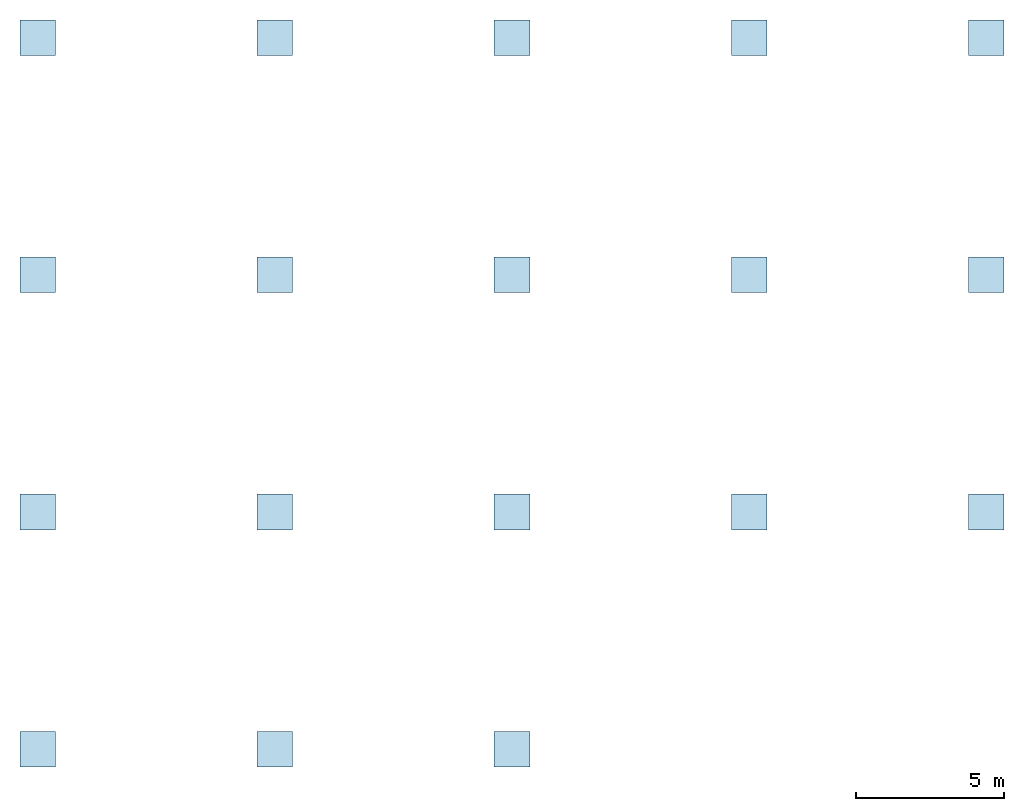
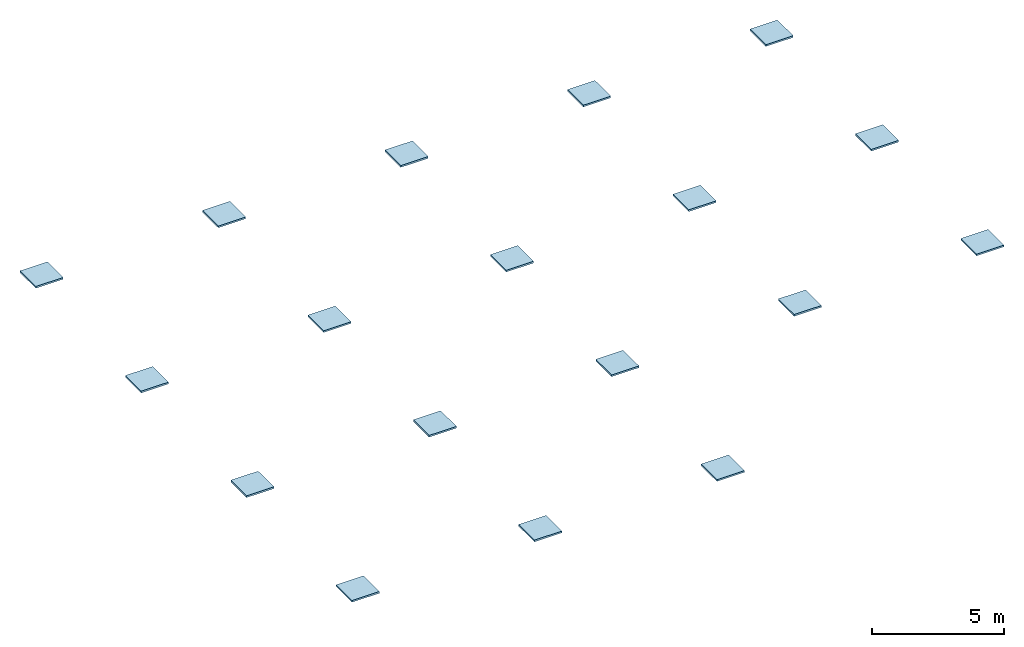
# One storey: 18 slabs.
"""IFC4X3_ADD2 building model written with IfcOpenShell, lengths in millimetres."""

from ifc_helpers import new_model, entity, si_unit, converted_unit, derived_unit, direction, frame, frame_2d, origin, origin_2d_with_axis, place, context, subcontext, project, spatial, rectangle, extrude, material, layer, layer_set, layer_usage, type_object, element, save


model = new_model("IFC4X3_ADD2")

# Units and contexts
model_context = context("Model", 3, precision=0.01, world=origin(), true_north=direction((6.123233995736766e-17, 1.0)))
plan_context = context("Plan", 3, precision=0.01, world=origin(), true_north=direction((6.123233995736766e-17, 1.0)))
body_context = subcontext(model_context, "Body", "Model", "MODEL_VIEW")
ifc_project = project(units=[si_unit("LENGTHUNIT", "METRE", prefix="MILLI"), converted_unit("PLANEANGLEUNIT", "DEGREE", entity("IfcPlaneAngleMeasure", 0.017453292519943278), si_unit("PLANEANGLEUNIT", "RADIAN"), dimensions=[0, 0, 0, 0, 0, 0, 0]), si_unit("AREAUNIT", "SQUARE_METRE"), si_unit("VOLUMEUNIT", "CUBIC_METRE"), derived_unit("THERMALTRANSMITTANCEUNIT", [(si_unit("MASSUNIT", "GRAM", prefix="KILO"), 1), (si_unit("THERMODYNAMICTEMPERATUREUNIT", "KELVIN"), -1), (si_unit("TIMEUNIT", "SECOND"), -3)]), derived_unit("USERDEFINED", [(si_unit("MASSUNIT", "GRAM", prefix="KILO"), 1), (si_unit("THERMODYNAMICTEMPERATUREUNIT", "KELVIN"), -1), (si_unit("TIMEUNIT", "SECOND"), -2)]), derived_unit("THERMALRESISTANCEUNIT", [(si_unit("MASSUNIT", "GRAM", prefix="KILO"), -1), (si_unit("TIMEUNIT", "SECOND"), 3), (si_unit("THERMODYNAMICTEMPERATUREUNIT", "KELVIN"), 1)]), si_unit("PRESSUREUNIT", "PASCAL"), derived_unit("MASSDENSITYUNIT", [(si_unit("MASSUNIT", "GRAM", prefix="KILO"), 1), (si_unit("LENGTHUNIT", "METRE"), -3)]), derived_unit("MODULUSOFELASTICITYUNIT", [(si_unit("MASSUNIT", "GRAM", prefix="KILO"), 1), (si_unit("TIMEUNIT", "SECOND"), -2), (si_unit("LENGTHUNIT", "METRE"), -1)]), derived_unit("THERMALEXPANSIONCOEFFICIENTUNIT", [(si_unit("THERMODYNAMICTEMPERATUREUNIT", "KELVIN"), -1)]), derived_unit("VAPORPERMEABILITYUNIT", [(si_unit("LENGTHUNIT", "METRE"), -1), (si_unit("TIMEUNIT", "SECOND"), 1)]), derived_unit("USERDEFINED", [(si_unit("MASSUNIT", "GRAM", prefix="KILO"), 1), (si_unit("TIMEUNIT", "SECOND"), -3), (si_unit("LENGTHUNIT", "METRE"), 3), (si_unit("ELECTRICCURRENTUNIT", "AMPERE"), -2)]), derived_unit("SPECIFICHEATCAPACITYUNIT", [(si_unit("THERMODYNAMICTEMPERATUREUNIT", "KELVIN"), -1), (si_unit("TIMEUNIT", "SECOND"), -2), (si_unit("LENGTHUNIT", "METRE"), 2)]), derived_unit("THERMALCONDUCTANCEUNIT", [(si_unit("MASSUNIT", "GRAM", prefix="KILO"), 1), (si_unit("THERMODYNAMICTEMPERATUREUNIT", "KELVIN"), -1), (si_unit("TIMEUNIT", "SECOND"), -3), (si_unit("LENGTHUNIT", "METRE"), 1)])], contexts=[model_context, plan_context])

# Site, building, storey
site_placement = place(None, origin())
site = spatial("IfcSite", under=ifc_project, at=site_placement, Name="Default", CompositionType="ELEMENT")
building_placement = place(site_placement, origin())
building = spatial("IfcBuilding", under=site, at=building_placement, Name="Building Name", CompositionType="ELEMENT")
storey_placement = place(building_placement, frame((0.0, 0.0, -1850.0)))
storey = spatial("IfcBuildingStorey", under=building, at=storey_placement, Name="L-02", CompositionType="ELEMENT", Elevation=-1850.0000000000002)

# Slabs
ifc_material = material(Name="Concrete - Cast-in-Place Concrete", Category="Concrete")
ifc_layer = layer(ifc_material, 80.0, Name="Concrete - Cast-in-Place Concrete", Category="Concrete")
ifc_layer_set = layer_set([ifc_layer], Name="Floor:Blinding concrete 80mm")
ifc_layer_usage_1 = layer_usage(ifc_layer_set, "AXIS3", "POSITIVE", 0.0)
slab_type = type_object("IfcSlabType", Name="Floor:Blinding concrete 80mm", PredefinedType="FLOOR", material=ifc_layer_set)
slab_1_placement = place(storey_placement, origin())
element("IfcSlab", 1, at=slab_1_placement, inside=storey, type_object=slab_type, material=ifc_layer_usage_1, Name="Floor:Blinding concrete 80mm", ObjectType="Floor:Blinding concrete 80mm", PredefinedType="FLOOR", context=body_context, shape_type="SweptSolid", body=[
    extrude(rectangle(XDim=1200.0, YDim=1200.0, at=origin_2d_with_axis()), frame((-12967.951236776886, 12096.696870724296, 0.0), z_axis=(0.0, 0.0, -1.0), x_axis=(0.0, 1.0, 0.0)), (0.0, 0.0, 1.0), 79.99999999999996),
])
ifc_layer_usage_2 = layer_usage(ifc_layer_set, "AXIS3", "POSITIVE", 0.0)
slab_2_placement = place(storey_placement, origin())
element("IfcSlab", 2, at=slab_2_placement, inside=storey, type_object=slab_type, material=ifc_layer_usage_2, Name="Floor:Blinding concrete 80mm", ObjectType="Floor:Blinding concrete 80mm", PredefinedType="FLOOR", context=body_context, shape_type="SweptSolid", body=[
    extrude(rectangle(XDim=1200.0, YDim=1200.0, at=origin_2d_with_axis()), frame((-4967.951236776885, 12096.69687072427, 0.0), z_axis=(0.0, 0.0, -1.0), x_axis=(0.0, 1.0, 0.0)), (0.0, 0.0, 1.0), 79.99999999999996),
])
ifc_layer_usage_3 = layer_usage(ifc_layer_set, "AXIS3", "POSITIVE", 0.0)
slab_3_placement = place(storey_placement, origin())
element("IfcSlab", 3, at=slab_3_placement, inside=storey, type_object=slab_type, material=ifc_layer_usage_3, Name="Floor:Blinding concrete 80mm", ObjectType="Floor:Blinding concrete 80mm", PredefinedType="FLOOR", context=body_context, shape_type="SweptSolid", body=[
    extrude(rectangle(XDim=1200.0, YDim=1200.0, at=origin_2d_with_axis()), frame((3032.0487632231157, 12096.696870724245, 0.0), z_axis=(0.0, 0.0, -1.0), x_axis=(0.0, 1.0, 0.0)), (0.0, 0.0, 1.0), 79.99999999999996),
])
ifc_layer_usage_4 = layer_usage(ifc_layer_set, "AXIS3", "POSITIVE", 0.0)
slab_4_placement = place(storey_placement, origin())
element("IfcSlab", 4, at=slab_4_placement, inside=storey, type_object=slab_type, material=ifc_layer_usage_4, Name="Floor:Blinding concrete 80mm", ObjectType="Floor:Blinding concrete 80mm", PredefinedType="FLOOR", context=body_context, shape_type="SweptSolid", body=[
    extrude(rectangle(XDim=1200.0, YDim=1200.0, at=origin_2d_with_axis()), frame((11032.048763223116, 12096.696870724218, 0.0), z_axis=(0.0, 0.0, -1.0), x_axis=(0.0, 1.0, 0.0)), (0.0, 0.0, 1.0), 79.99999999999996),
])
ifc_layer_usage_5 = layer_usage(ifc_layer_set, "AXIS3", "POSITIVE", 0.0)
slab_5_placement = place(storey_placement, origin())
element("IfcSlab", 5, at=slab_5_placement, inside=storey, type_object=slab_type, material=ifc_layer_usage_5, Name="Floor:Blinding concrete 80mm", ObjectType="Floor:Blinding concrete 80mm", PredefinedType="FLOOR", context=body_context, shape_type="SweptSolid", body=[
    extrude(rectangle(XDim=1200.0, YDim=1199.9999999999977, at=frame_2d((0.0, 1.0800249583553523e-12), x_axis=(1.0, 0.0))), frame((19032.048763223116, 12096.696870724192, 0.0), z_axis=(0.0, 0.0, -1.0), x_axis=(0.0, 1.0, 0.0)), (0.0, 0.0, 1.0), 79.99999999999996),
])
ifc_layer_usage_6 = layer_usage(ifc_layer_set, "AXIS3", "POSITIVE", 0.0)
slab_6_placement = place(storey_placement, origin())
element("IfcSlab", 6, at=slab_6_placement, inside=storey, type_object=slab_type, material=ifc_layer_usage_6, Name="Floor:Blinding concrete 80mm", ObjectType="Floor:Blinding concrete 80mm", PredefinedType="FLOOR", context=body_context, shape_type="SweptSolid", body=[
    extrude(rectangle(XDim=1200.0, YDim=1199.9999999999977, at=frame_2d((0.0, -1.0800249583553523e-12), x_axis=(1.0, 0.0))), frame((19032.048763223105, 4096.696870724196, 0.0), z_axis=(0.0, 0.0, -1.0), x_axis=(0.0, 1.0, 0.0)), (0.0, 0.0, 1.0), 79.99999999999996),
])
ifc_layer_usage_7 = layer_usage(ifc_layer_set, "AXIS3", "POSITIVE", 0.0)
slab_7_placement = place(storey_placement, origin())
element("IfcSlab", 7, at=slab_7_placement, inside=storey, type_object=slab_type, material=ifc_layer_usage_7, Name="Floor:Blinding concrete 80mm", ObjectType="Floor:Blinding concrete 80mm", PredefinedType="FLOOR", context=body_context, shape_type="SweptSolid", body=[
    extrude(rectangle(XDim=1200.0, YDim=1199.9999999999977, at=frame_2d((0.0, -1.0800249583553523e-12), x_axis=(1.0, 0.0))), frame((11032.048763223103, 4096.696870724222, 0.0), z_axis=(0.0, 0.0, -1.0), x_axis=(0.0, 1.0, 0.0)), (0.0, 0.0, 1.0), 79.99999999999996),
])
ifc_layer_usage_8 = layer_usage(ifc_layer_set, "AXIS3", "POSITIVE", 0.0)
slab_8_placement = place(storey_placement, origin())
element("IfcSlab", 8, at=slab_8_placement, inside=storey, type_object=slab_type, material=ifc_layer_usage_8, Name="Floor:Blinding concrete 80mm", ObjectType="Floor:Blinding concrete 80mm", PredefinedType="FLOOR", context=body_context, shape_type="SweptSolid", body=[
    extrude(rectangle(XDim=1200.0, YDim=1199.999999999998, at=origin_2d_with_axis()), frame((3032.0487632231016, 4096.696870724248, 0.0), z_axis=(0.0, 0.0, -1.0), x_axis=(0.0, 1.0, 0.0)), (0.0, 0.0, 1.0), 79.99999999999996),
])
ifc_layer_usage_9 = layer_usage(ifc_layer_set, "AXIS3", "POSITIVE", 0.0)
slab_9_placement = place(storey_placement, origin())
element("IfcSlab", 9, at=slab_9_placement, inside=storey, type_object=slab_type, material=ifc_layer_usage_9, Name="Floor:Blinding concrete 80mm", ObjectType="Floor:Blinding concrete 80mm", PredefinedType="FLOOR", context=body_context, shape_type="SweptSolid", body=[
    extrude(rectangle(XDim=1200.0, YDim=1199.999999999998, at=origin_2d_with_axis()), frame((-4967.951236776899, 4096.696870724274, 0.0), z_axis=(0.0, 0.0, -1.0), x_axis=(0.0, 1.0, 0.0)), (0.0, 0.0, 1.0), 79.99999999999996),
])
ifc_layer_usage_10 = layer_usage(ifc_layer_set, "AXIS3", "POSITIVE", 0.0)
slab_10_placement = place(storey_placement, origin())
element("IfcSlab", 10, at=slab_10_placement, inside=storey, type_object=slab_type, material=ifc_layer_usage_10, Name="Floor:Blinding concrete 80mm", ObjectType="Floor:Blinding concrete 80mm", PredefinedType="FLOOR", context=body_context, shape_type="SweptSolid", body=[
    extrude(rectangle(XDim=1200.0, YDim=1199.9999999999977, at=frame_2d((0.0, -1.0800249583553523e-12), x_axis=(1.0, 0.0))), frame((-12967.951236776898, 4096.6968707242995, 0.0), z_axis=(0.0, 0.0, -1.0), x_axis=(0.0, 1.0, 0.0)), (0.0, 0.0, 1.0), 79.99999999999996),
])
ifc_layer_usage_11 = layer_usage(ifc_layer_set, "AXIS3", "POSITIVE", 0.0)
slab_11_placement = place(storey_placement, origin())
element("IfcSlab", 11, at=slab_11_placement, inside=storey, type_object=slab_type, material=ifc_layer_usage_11, Name="Floor:Blinding concrete 80mm", ObjectType="Floor:Blinding concrete 80mm", PredefinedType="FLOOR", context=body_context, shape_type="SweptSolid", body=[
    extrude(rectangle(XDim=1200.0, YDim=1199.9999999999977, at=frame_2d((0.0, -1.0800249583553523e-12), x_axis=(1.0, 0.0))), frame((-12967.951236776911, -3903.3031292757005, 0.0), z_axis=(0.0, 0.0, -1.0), x_axis=(0.0, 1.0, 0.0)), (0.0, 0.0, 1.0), 79.99999999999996),
])
ifc_layer_usage_12 = layer_usage(ifc_layer_set, "AXIS3", "POSITIVE", 0.0)
slab_12_placement = place(storey_placement, origin())
element("IfcSlab", 12, at=slab_12_placement, inside=storey, type_object=slab_type, material=ifc_layer_usage_12, Name="Floor:Blinding concrete 80mm", ObjectType="Floor:Blinding concrete 80mm", PredefinedType="FLOOR", context=body_context, shape_type="SweptSolid", body=[
    extrude(rectangle(XDim=1200.0, YDim=1199.999999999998, at=origin_2d_with_axis()), frame((-4967.951236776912, -3903.3031292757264, 0.0), z_axis=(0.0, 0.0, -1.0), x_axis=(0.0, 1.0, 0.0)), (0.0, 0.0, 1.0), 79.99999999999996),
])
ifc_layer_usage_13 = layer_usage(ifc_layer_set, "AXIS3", "POSITIVE", 0.0)
slab_13_placement = place(storey_placement, origin())
element("IfcSlab", 13, at=slab_13_placement, inside=storey, type_object=slab_type, material=ifc_layer_usage_13, Name="Floor:Blinding concrete 80mm", ObjectType="Floor:Blinding concrete 80mm", PredefinedType="FLOOR", context=body_context, shape_type="SweptSolid", body=[
    extrude(rectangle(XDim=1200.0, YDim=1199.999999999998, at=origin_2d_with_axis()), frame((3032.0487632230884, -3903.303129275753, 0.0), z_axis=(0.0, 0.0, -1.0), x_axis=(0.0, 1.0, 0.0)), (0.0, 0.0, 1.0), 79.99999999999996),
])
ifc_layer_usage_14 = layer_usage(ifc_layer_set, "AXIS3", "POSITIVE", 0.0)
slab_14_placement = place(storey_placement, origin())
element("IfcSlab", 14, at=slab_14_placement, inside=storey, type_object=slab_type, material=ifc_layer_usage_14, Name="Floor:Blinding concrete 80mm", ObjectType="Floor:Blinding concrete 80mm", PredefinedType="FLOOR", context=body_context, shape_type="SweptSolid", body=[
    extrude(rectangle(XDim=1200.0, YDim=1199.9999999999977, at=frame_2d((0.0, -1.0800249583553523e-12), x_axis=(1.0, 0.0))), frame((11032.04876322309, -3903.3031292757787, 0.0), z_axis=(0.0, 0.0, -1.0), x_axis=(0.0, 1.0, 0.0)), (0.0, 0.0, 1.0), 79.99999999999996),
])
ifc_layer_usage_15 = layer_usage(ifc_layer_set, "AXIS3", "POSITIVE", 0.0)
slab_15_placement = place(storey_placement, origin())
element("IfcSlab", 15, at=slab_15_placement, inside=storey, type_object=slab_type, material=ifc_layer_usage_15, Name="Floor:Blinding concrete 80mm", ObjectType="Floor:Blinding concrete 80mm", PredefinedType="FLOOR", context=body_context, shape_type="SweptSolid", body=[
    extrude(rectangle(XDim=1200.0, YDim=1199.9999999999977, at=frame_2d((0.0, -1.0800249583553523e-12), x_axis=(1.0, 0.0))), frame((19032.04876322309, -3903.3031292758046, 0.0), z_axis=(0.0, 0.0, -1.0), x_axis=(0.0, 1.0, 0.0)), (0.0, 0.0, 1.0), 79.99999999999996),
])
ifc_layer_usage_16 = layer_usage(ifc_layer_set, "AXIS3", "POSITIVE", 0.0)
slab_16_placement = place(storey_placement, origin())
element("IfcSlab", 16, at=slab_16_placement, inside=storey, type_object=slab_type, material=ifc_layer_usage_16, Name="Floor:Blinding concrete 80mm", ObjectType="Floor:Blinding concrete 80mm", PredefinedType="FLOOR", context=body_context, shape_type="SweptSolid", body=[
    extrude(rectangle(XDim=1200.0, YDim=1199.999999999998, at=origin_2d_with_axis()), frame((3032.0487632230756, -11903.303129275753, 0.0), z_axis=(0.0, 0.0, -1.0), x_axis=(0.0, 1.0, 0.0)), (0.0, 0.0, 1.0), 79.99999999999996),
])
ifc_layer_usage_17 = layer_usage(ifc_layer_set, "AXIS3", "POSITIVE", 0.0)
slab_17_placement = place(storey_placement, origin())
element("IfcSlab", 17, at=slab_17_placement, inside=storey, type_object=slab_type, material=ifc_layer_usage_17, Name="Floor:Blinding concrete 80mm", ObjectType="Floor:Blinding concrete 80mm", PredefinedType="FLOOR", context=body_context, shape_type="SweptSolid", body=[
    extrude(rectangle(XDim=1200.0, YDim=1199.999999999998, at=origin_2d_with_axis()), frame((-4967.951236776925, -11903.303129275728, 0.0), z_axis=(0.0, 0.0, -1.0), x_axis=(0.0, 1.0, 0.0)), (0.0, 0.0, 1.0), 79.99999999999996),
])
ifc_layer_usage_18 = layer_usage(ifc_layer_set, "AXIS3", "POSITIVE", 0.0)
slab_18_placement = place(storey_placement, origin())
element("IfcSlab", 18, at=slab_18_placement, inside=storey, type_object=slab_type, material=ifc_layer_usage_18, Name="Floor:Blinding concrete 80mm", ObjectType="Floor:Blinding concrete 80mm", PredefinedType="FLOOR", context=body_context, shape_type="SweptSolid", body=[
    extrude(rectangle(XDim=1200.0, YDim=1199.9999999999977, at=frame_2d((0.0, -1.0800249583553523e-12), x_axis=(1.0, 0.0))), frame((-12967.951236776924, -11903.3031292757, 0.0), z_axis=(0.0, 0.0, -1.0), x_axis=(0.0, 1.0, 0.0)), (0.0, 0.0, 1.0), 79.99999999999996),
])

save(model, "model.ifc")
